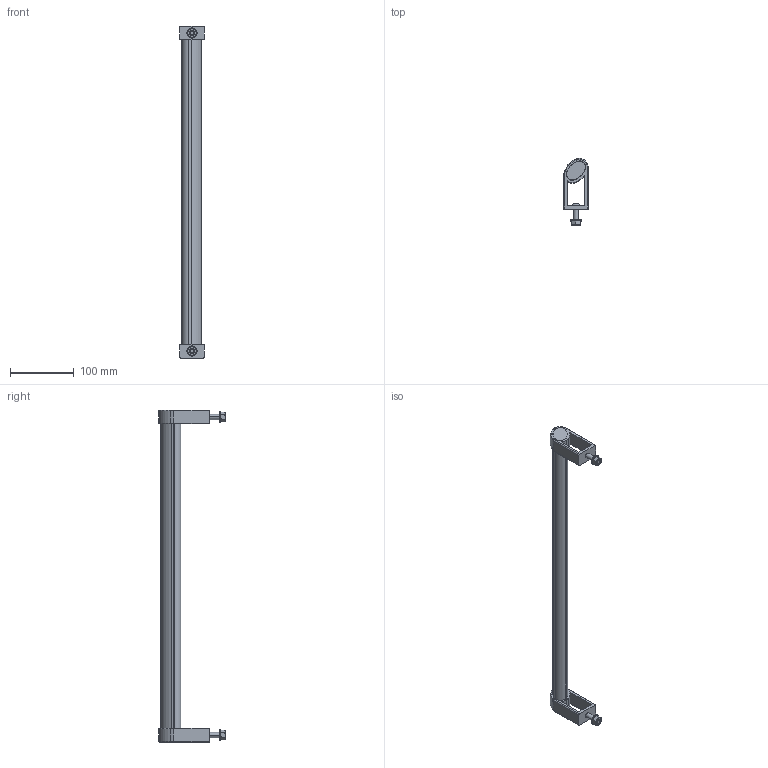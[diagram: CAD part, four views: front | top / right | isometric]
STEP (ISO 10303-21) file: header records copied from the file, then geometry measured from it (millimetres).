
FILE_DESCRIPTION (( 'STEP AP214' ), '1' );
FILE_NAME ('335-36-500-B-EL.step', '2021-04-15T08:16:50', ( '' ), ( '' ), 'SwSTEP 2.0', 'SolidWorks 2019', '' );
FILE_SCHEMA (( 'AUTOMOTIVE_DESIGN' ));
Length unit declared in the file: millimetre
Products named in the file (3): 335^WB335_36-500-B-EL; 335-36-500-B-EL; Mutter^WB335
Assembly tree (3 placements, depth 2):
  335-36-500-B-EL
    335^WB335_36-500-B-EL
    Mutter^WB335  x2
Bounding box: 38 x 104.51 x 522 mm (x, y, z)
Volume: 416346.3 mm3; surface area: 71313.6 mm2
Topology: 3 solids, 3 shells, 211 faces, 483 edges, 296 vertices
Faces by surface type: cylinder 73, plane 60, cone 54, torus 20, sphere 4
Entity records: 7083 total; most frequent: CARTESIAN_POINT 1096, DIRECTION 965, ORIENTED_EDGE 830, EDGE_CURVE 415, AXIS2_PLACEMENT_3D 397, VERTEX_POINT 256, CIRCLE 212, EDGE_LOOP 201
